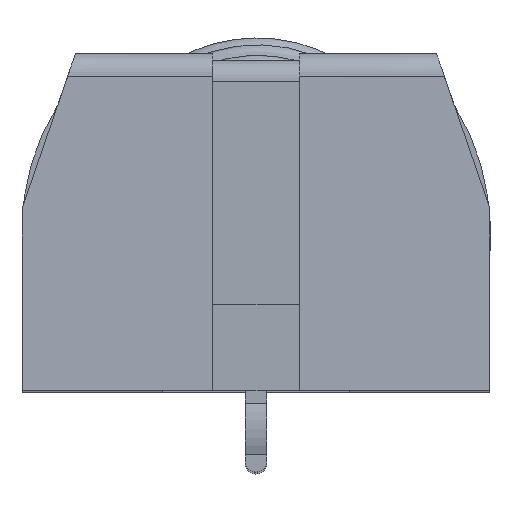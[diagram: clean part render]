
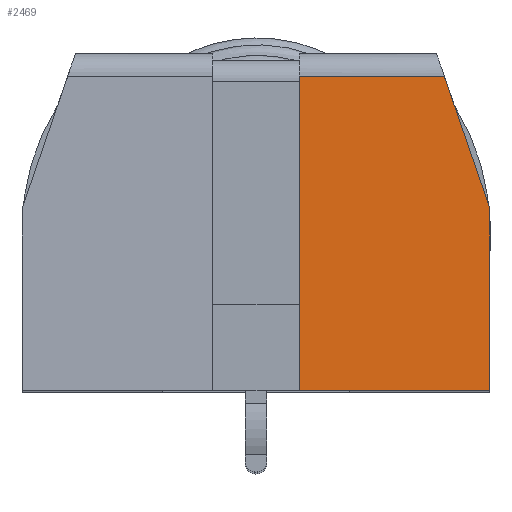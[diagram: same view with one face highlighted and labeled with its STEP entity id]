
A CAD part, top view. The second image highlights one B-rep face of the part: STEP entity #2469.
In plain terms, the highlighted planar face has unit normal (0, 0.018, 1).
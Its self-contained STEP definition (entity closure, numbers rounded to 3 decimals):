
#283=LINE('',#8871,#555);
#285=LINE('',#8875,#557);
#286=LINE('',#8877,#558);
#287=LINE('',#8879,#559);
#288=LINE('',#8880,#560);
#555=VECTOR('',#3263,639.);
#557=VECTOR('',#3267,639.);
#558=VECTOR('',#3268,639.);
#559=VECTOR('',#3269,639.);
#560=VECTOR('',#3270,639.);
#703=PLANE('',#2713);
#827=FACE_OUTER_BOUND('',#957,.T.);
#957=EDGE_LOOP('',(#2175,#2176,#2177,#2178,#2179));
#1251=VERTEX_POINT('',#8868);
#1252=VERTEX_POINT('',#8870);
#1253=VERTEX_POINT('',#8874);
#1254=VERTEX_POINT('',#8876);
#1255=VERTEX_POINT('',#8878);
#1579=EDGE_CURVE('',#1252,#1251,#283,.T.);
#1581=EDGE_CURVE('',#1253,#1251,#285,.T.);
#1582=EDGE_CURVE('',#1253,#1254,#286,.T.);
#1583=EDGE_CURVE('',#1254,#1255,#287,.T.);
#1584=EDGE_CURVE('',#1255,#1252,#288,.T.);
#2175=ORIENTED_EDGE('',*,*,#1581,.F.);
#2176=ORIENTED_EDGE('',*,*,#1582,.T.);
#2177=ORIENTED_EDGE('',*,*,#1583,.T.);
#2178=ORIENTED_EDGE('',*,*,#1584,.T.);
#2179=ORIENTED_EDGE('',*,*,#1579,.T.);
#2469=ADVANCED_FACE('',(#827),#703,.T.);
#2713=AXIS2_PLACEMENT_3D('',#8873,#3265,#3266);
#3263=DIRECTION('',(0.,1.,-0.017));
#3265=DIRECTION('center_axis',(0.,0.017,1.));
#3266=DIRECTION('ref_axis',(0.,-1.,0.017));
#3267=DIRECTION('',(0.326,-0.945,0.017));
#3268=DIRECTION('',(-1.,0.,0.));
#3269=DIRECTION('',(0.,-1.,0.017));
#3270=DIRECTION('',(1.,0.,0.));
#8868=CARTESIAN_POINT('',(8.792,8.133,-2.795));
#8870=CARTESIAN_POINT('',(8.792,3.02,-2.706));
#8871=CARTESIAN_POINT('',(8.792,12.512,-2.872));
#8873=CARTESIAN_POINT('Origin',(75.845,3.02,-2.706));
#8874=CARTESIAN_POINT('',(7.502,11.877,-2.861));
#8875=CARTESIAN_POINT('',(17.471,-17.073,-2.355));
#8876=CARTESIAN_POINT('',(3.411,11.877,-2.861));
#8877=CARTESIAN_POINT('',(75.845,11.877,-2.861));
#8878=CARTESIAN_POINT('',(3.411,3.02,-2.706));
#8879=CARTESIAN_POINT('',(3.411,12.544,-2.872));
#8880=CARTESIAN_POINT('',(3.411,3.02,-2.706));
